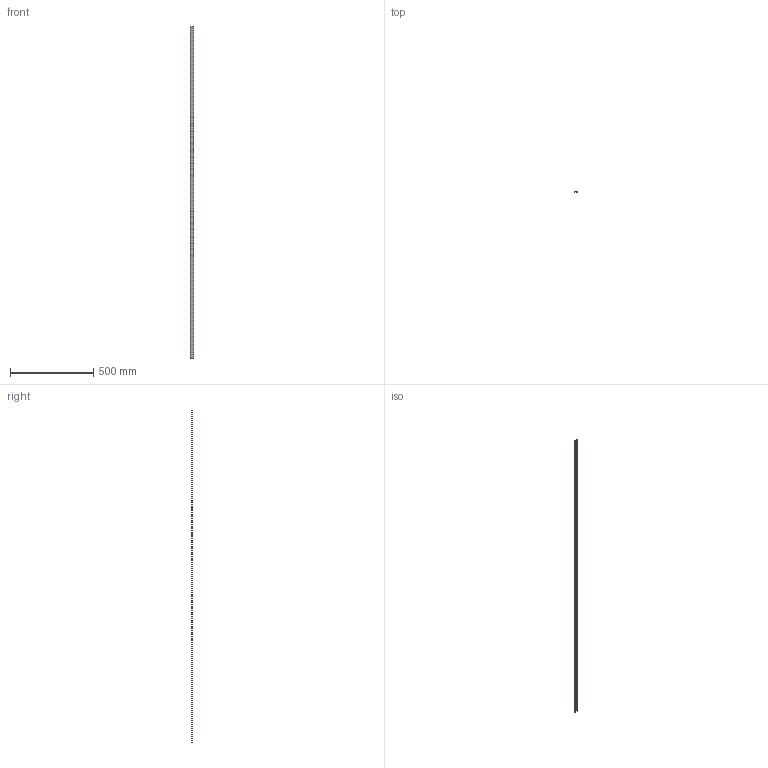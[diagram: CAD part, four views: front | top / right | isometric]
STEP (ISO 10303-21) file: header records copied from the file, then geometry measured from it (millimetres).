
FILE_DESCRIPTION((''),'2;1');
FILE_NAME('PRT0001','2023-07-22T',('Administrator'),(''),'PRO/ENGINEER BY PARAMETRIC TECHNOLOGY CORPORATION, 2015070','PRO/ENGINEER BY PARAMETRIC TECHNOLOGY CORPORATION, 2015070','');
FILE_SCHEMA(('CONFIG_CONTROL_DESIGN','SHAPE_APPEARANCE_LAYERS_GROUPS'));
Length unit declared in the file: millimetre
Products named in the file (1): PRT0001
Bounding box: 20.3 x 4.49 x 2000 mm (x, y, z)
Volume: 53475.4 mm3; surface area: 110801.9 mm2
Topology: 1 solids, 1 shells, 26 faces, 72 edges, 48 vertices
Faces by surface type: plane 14, cylinder 12
Entity records: 1176 total; most frequent: COLOUR_RGB 292, DIRECTION 148, CARTESIAN_POINT 146, ORIENTED_EDGE 144, EDGE_CURVE 72, AXIS2_PLACEMENT_3D 50, VECTOR 48, LINE 48
